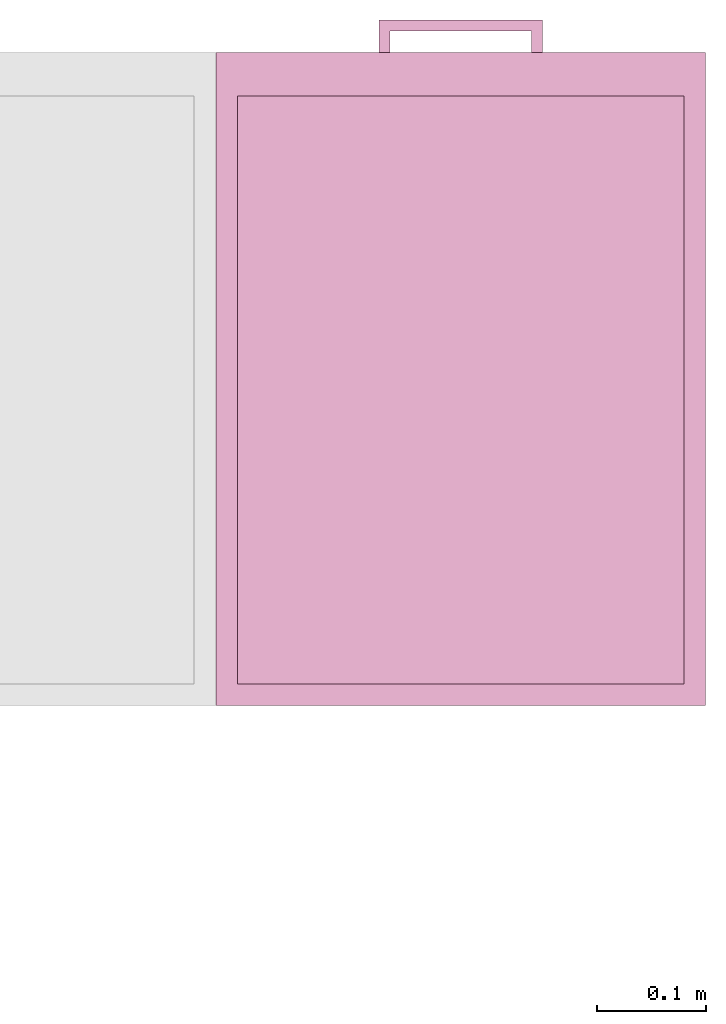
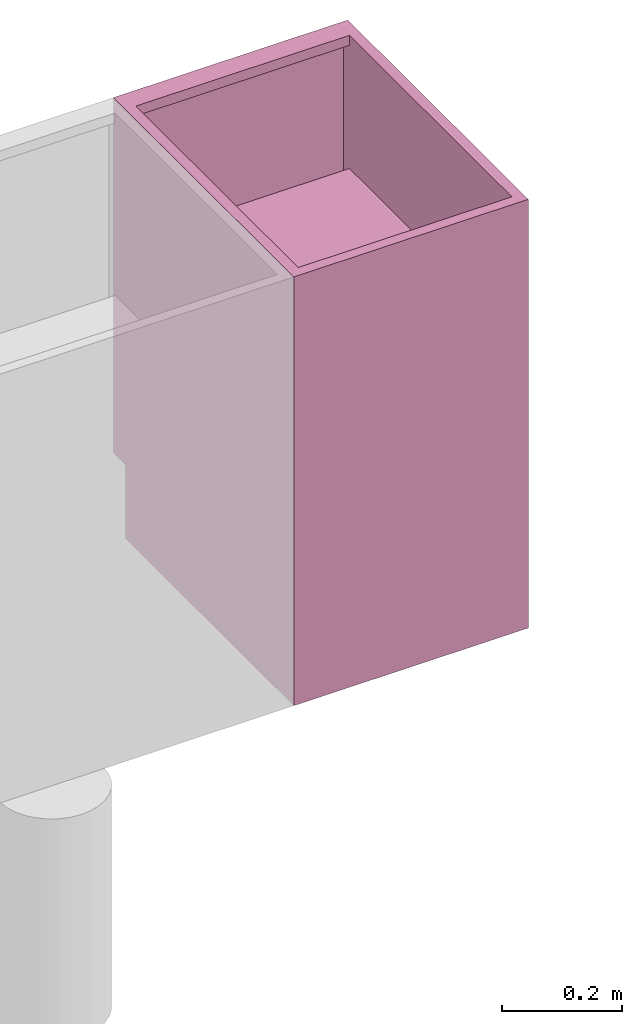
# One storey, part 2 of 3: 1 furnishing.
"""IFC2X3 building model written with IfcOpenShell, lengths in metres."""

from ifc_helpers import new_model, entity, si_unit, converted_unit, derived_unit, direction, frame, origin, place, context, subcontext, project, spatial, faceted_brep, source, transform, mapped, material, type_object, type_shapes, element, save


model = new_model("IFC2X3")

# Units and contexts
model_context = context("Model", 3, precision=1e-05, world=origin(), true_north=direction((6.123031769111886e-17, 1.0)))
body_context = subcontext(model_context, "Body", "Model", "MODEL_VIEW")
ifc_project = project(units=[si_unit("LENGTHUNIT", "METRE"), si_unit("AREAUNIT", "SQUARE_METRE"), si_unit("VOLUMEUNIT", "CUBIC_METRE"), converted_unit("PLANEANGLEUNIT", "DEGREE", entity("IfcRatioMeasure", 0.017453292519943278), si_unit("PLANEANGLEUNIT", "RADIAN"), dimensions=[0, 0, 0, 0, 0, 0, 0]), si_unit("MASSUNIT", "GRAM", prefix="KILO"), derived_unit("MASSDENSITYUNIT", [(si_unit("MASSUNIT", "GRAM", prefix="KILO"), 1), (si_unit("LENGTHUNIT", "METRE"), -3)]), derived_unit("IONCONCENTRATIONUNIT", [(si_unit("MASSUNIT", "GRAM", prefix="KILO"), 1), (si_unit("LENGTHUNIT", "METRE"), -3)]), derived_unit("MOMENTOFINERTIAUNIT", [(si_unit("LENGTHUNIT", "METRE"), 4)]), si_unit("TIMEUNIT", "SECOND"), si_unit("FREQUENCYUNIT", "HERTZ"), si_unit("THERMODYNAMICTEMPERATUREUNIT", "DEGREE_CELSIUS"), derived_unit("THERMALTRANSMITTANCEUNIT", [(si_unit("MASSUNIT", "GRAM", prefix="KILO"), 1), (si_unit("THERMODYNAMICTEMPERATUREUNIT", "KELVIN"), -1), (si_unit("TIMEUNIT", "SECOND"), -3)]), derived_unit("THERMALCONDUCTANCEUNIT", [(si_unit("MASSUNIT", "GRAM", prefix="KILO"), 1), (si_unit("THERMODYNAMICTEMPERATUREUNIT", "KELVIN"), -1), (si_unit("TIMEUNIT", "SECOND"), -3), (si_unit("LENGTHUNIT", "METRE"), 1)]), derived_unit("VOLUMETRICFLOWRATEUNIT", [(si_unit("LENGTHUNIT", "METRE"), 3), (si_unit("TIMEUNIT", "SECOND"), -1)]), derived_unit("MASSFLOWRATEUNIT", [(si_unit("MASSUNIT", "GRAM", prefix="KILO"), 1), (si_unit("TIMEUNIT", "SECOND"), -1)]), derived_unit("ROTATIONALFREQUENCYUNIT", [(si_unit("TIMEUNIT", "SECOND"), -1)]), si_unit("ELECTRICCURRENTUNIT", "AMPERE"), si_unit("ELECTRICVOLTAGEUNIT", "VOLT"), si_unit("POWERUNIT", "WATT"), si_unit("FORCEUNIT", "NEWTON", prefix="KILO"), si_unit("ILLUMINANCEUNIT", "LUX"), si_unit("LUMINOUSFLUXUNIT", "LUMEN"), si_unit("LUMINOUSINTENSITYUNIT", "CANDELA"), derived_unit("USERDEFINED", [(si_unit("MASSUNIT", "GRAM", prefix="KILO"), -1), (si_unit("LENGTHUNIT", "METRE"), -2), (si_unit("TIMEUNIT", "SECOND"), 3), (si_unit("LUMINOUSFLUXUNIT", "LUMEN"), 1)]), derived_unit("USERDEFINED", [(si_unit("MASSUNIT", "GRAM", prefix="KILO"), 1), (si_unit("TIMEUNIT", "SECOND"), -3), (si_unit("LENGTHUNIT", "METRE"), 3), (si_unit("ELECTRICCURRENTUNIT", "AMPERE"), -2)]), derived_unit("SOUNDPOWERUNIT", [(si_unit("MASSUNIT", "GRAM", prefix="KILO"), 1), (si_unit("TIMEUNIT", "SECOND"), -3), (si_unit("LENGTHUNIT", "METRE"), 2)]), derived_unit("SOUNDPRESSUREUNIT", [(si_unit("MASSUNIT", "GRAM", prefix="KILO"), 1), (si_unit("LENGTHUNIT", "METRE"), -1), (si_unit("TIMEUNIT", "SECOND"), -2)]), derived_unit("LINEARVELOCITYUNIT", [(si_unit("LENGTHUNIT", "METRE"), 1), (si_unit("TIMEUNIT", "SECOND"), -1)]), si_unit("PRESSUREUNIT", "PASCAL"), derived_unit("USERDEFINED", [(si_unit("MASSUNIT", "GRAM", prefix="KILO"), 1), (si_unit("LENGTHUNIT", "METRE"), -2), (si_unit("TIMEUNIT", "SECOND"), -2)]), derived_unit("LINEARFORCEUNIT", [(si_unit("MASSUNIT", "GRAM", prefix="KILO"), 1), (si_unit("TIMEUNIT", "SECOND"), -2)]), derived_unit("PLANARFORCEUNIT", [(si_unit("MASSUNIT", "GRAM", prefix="KILO"), 1), (si_unit("LENGTHUNIT", "METRE"), -1), (si_unit("TIMEUNIT", "SECOND"), -2)]), derived_unit("SPECIFICHEATCAPACITYUNIT", [(si_unit("THERMODYNAMICTEMPERATUREUNIT", "KELVIN"), -1), (si_unit("LENGTHUNIT", "METRE"), 2), (si_unit("TIMEUNIT", "SECOND"), -2)]), derived_unit("HEATINGVALUEUNIT", [(si_unit("LENGTHUNIT", "METRE"), 2), (si_unit("TIMEUNIT", "SECOND"), -2)]), derived_unit("VAPORPERMEABILITYUNIT", [(si_unit("LENGTHUNIT", "METRE"), -1), (si_unit("TIMEUNIT", "SECOND"), 1)]), derived_unit("DYNAMICVISCOSITYUNIT", [(si_unit("MASSUNIT", "GRAM", prefix="KILO"), 1), (si_unit("TIMEUNIT", "SECOND"), -1), (si_unit("LENGTHUNIT", "METRE"), -1)]), derived_unit("THERMALEXPANSIONCOEFFICIENTUNIT", [(si_unit("THERMODYNAMICTEMPERATUREUNIT", "KELVIN"), -1)]), derived_unit("MODULUSOFELASTICITYUNIT", [(si_unit("MASSUNIT", "GRAM", prefix="KILO"), 1), (si_unit("LENGTHUNIT", "METRE"), -1), (si_unit("TIMEUNIT", "SECOND"), -2)]), derived_unit("ISOTHERMALMOISTURECAPACITYUNIT", [(si_unit("LENGTHUNIT", "METRE"), 3), (si_unit("MASSUNIT", "GRAM", prefix="KILO"), -1)]), derived_unit("MOISTUREDIFFUSIVITYUNIT", [(si_unit("TIMEUNIT", "SECOND"), -1), (si_unit("LENGTHUNIT", "METRE"), 2)])], contexts=[model_context])

# Site, building, storey, space
site_placement = place(None, frame((1.2553507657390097, -0.6266432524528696, -1.0397761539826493), z_axis=(0.0, 0.0, 1.0), x_axis=(-1.0, 0.0, 0.0)))
site = spatial("IfcSite", under=ifc_project, at=site_placement, Name="Default", CompositionType="ELEMENT")
building_placement = place(site_placement, origin())
building = spatial("IfcBuilding", under=site, at=building_placement, Name="MAISON D'HABITATION", CompositionType="ELEMENT")
storey_placement = place(building_placement, frame((0.0, 0.0, -0.1602238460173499)))
storey = spatial("IfcBuildingStorey", under=building, at=storey_placement, Name="Niveau ...", CompositionType="ELEMENT", Elevation=-0.1602238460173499)
space_placement = place(storey_placement, origin())
space = spatial("IfcSpace", under=storey, at=space_placement, Name="08", CompositionType="ELEMENT", InteriorOrExteriorSpace="INTERNAL")

# Furnishing
ifc_material = material(Name="<Unnamed>")
furniture_type = type_object("IfcFurnitureType", Name="DRAWER UNITS:CUPBOARD DRAWER UNITS 450W", material=ifc_material)
shared_shape = source(origin(), body_context, "Body", "Brep", [
    faceted_brep([(-0.020299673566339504, -0.6000000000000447, 0.2850000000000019), (-0.020299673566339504, -0.6000000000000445, 0.26500000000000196), (-0.030299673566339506, -0.6000000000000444, 0.26500000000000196), (-0.030299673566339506, -0.6000000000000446, 0.2850000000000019), (-0.020299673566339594, -0.6200000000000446, 0.2850000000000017), (-0.020299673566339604, -0.6200000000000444, 0.2650000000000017), (0.10970032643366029, -0.6200000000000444, 0.2650000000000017), (0.10970032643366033, -0.6000000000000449, 0.26500000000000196), (0.11970032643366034, -0.6000000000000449, 0.2650000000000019), (0.11970032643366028, -0.6300000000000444, 0.2650000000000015), (-0.03029967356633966, -0.6300000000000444, 0.26500000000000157), (-0.03029967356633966, -0.6300000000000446, 0.28500000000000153), (0.1197003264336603, -0.6300000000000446, 0.28500000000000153), (0.11970032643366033, -0.6000000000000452, 0.2850000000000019), (0.10970032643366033, -0.6000000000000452, 0.2850000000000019), (0.10970032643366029, -0.6200000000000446, 0.2850000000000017)], [[[0, 1, 2, 3]], [[1, 0, 4, 5]], [[2, 1, 5, 6, 7, 8, 9, 10]], [[3, 2, 10, 11]], [[0, 3, 11, 12, 13, 14, 15, 4]], [[5, 4, 15, 6]], [[11, 10, 9, 12]], [[14, 13, 8, 7]], [[6, 15, 14, 7]], [[12, 9, 8, 13]]]),
    faceted_brep([(-0.02029967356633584, -0.6000000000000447, 0.4600000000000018), (-0.02029967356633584, -0.6000000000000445, 0.4400000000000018), (-0.030299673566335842, -0.6000000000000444, 0.4400000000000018), (-0.030299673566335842, -0.6000000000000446, 0.4600000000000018), (-0.020299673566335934, -0.6200000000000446, 0.4600000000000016), (-0.02029967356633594, -0.6200000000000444, 0.44000000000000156), (0.10970032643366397, -0.6200000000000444, 0.44000000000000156), (0.109700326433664, -0.6000000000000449, 0.4400000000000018), (0.11970032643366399, -0.6000000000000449, 0.44000000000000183), (0.11970032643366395, -0.6300000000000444, 0.44000000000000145), (-0.030299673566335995, -0.6300000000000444, 0.44000000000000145), (-0.030299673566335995, -0.6300000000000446, 0.4600000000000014), (0.11970032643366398, -0.6300000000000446, 0.4600000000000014), (0.11970032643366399, -0.6000000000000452, 0.4600000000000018), (0.109700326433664, -0.6000000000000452, 0.4600000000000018), (0.10970032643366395, -0.6200000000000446, 0.4600000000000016)], [[[0, 1, 2, 3]], [[1, 0, 4, 5]], [[2, 1, 5, 6, 7, 8, 9, 10]], [[3, 2, 10, 11]], [[0, 3, 11, 12, 13, 14, 15, 4]], [[5, 4, 15, 6]], [[11, 10, 9, 12]], [[14, 13, 8, 7]], [[6, 15, 14, 7]], [[12, 9, 8, 13]]]),
    faceted_brep([(-0.020299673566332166, -0.6000000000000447, 0.6350000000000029), (-0.020299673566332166, -0.6000000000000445, 0.6150000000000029), (-0.03029967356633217, -0.6000000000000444, 0.6150000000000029), (-0.03029967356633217, -0.6000000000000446, 0.6350000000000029), (-0.02029967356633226, -0.6200000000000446, 0.6350000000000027), (-0.02029967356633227, -0.6200000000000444, 0.6150000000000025), (0.10970032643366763, -0.6200000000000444, 0.6150000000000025), (0.10970032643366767, -0.6000000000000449, 0.6150000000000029), (0.11970032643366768, -0.6000000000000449, 0.6150000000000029), (0.11970032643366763, -0.6300000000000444, 0.6150000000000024), (-0.030299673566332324, -0.6300000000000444, 0.6150000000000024), (-0.030299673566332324, -0.6300000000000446, 0.6350000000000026), (0.11970032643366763, -0.6300000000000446, 0.6350000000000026), (0.11970032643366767, -0.6000000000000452, 0.6350000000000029), (0.10970032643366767, -0.6000000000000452, 0.6350000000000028), (0.10970032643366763, -0.6200000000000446, 0.6350000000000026)], [[[0, 1, 2, 3]], [[1, 0, 4, 5]], [[2, 1, 5, 6, 7, 8, 9, 10]], [[3, 2, 10, 11]], [[0, 3, 11, 12, 13, 14, 15, 4]], [[5, 4, 15, 6]], [[11, 10, 9, 12]], [[14, 13, 8, 7]], [[6, 15, 14, 7]], [[12, 9, 8, 13]]]),
    faceted_brep([(-0.020299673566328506, -0.6000000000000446, 0.8100000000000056), (-0.020299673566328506, -0.6000000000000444, 0.7900000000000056), (-0.030299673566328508, -0.6000000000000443, 0.7900000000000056), (-0.030299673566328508, -0.6000000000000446, 0.8100000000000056), (-0.020299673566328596, -0.6200000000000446, 0.8100000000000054), (-0.020299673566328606, -0.6200000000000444, 0.7900000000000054), (0.1097003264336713, -0.6200000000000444, 0.7900000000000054), (0.10970032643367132, -0.6000000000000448, 0.7900000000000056), (0.11970032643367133, -0.6000000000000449, 0.7900000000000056), (0.11970032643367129, -0.6300000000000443, 0.7900000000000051), (-0.03029967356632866, -0.6300000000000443, 0.7900000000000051), (-0.03029967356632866, -0.6300000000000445, 0.8100000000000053), (0.1197003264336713, -0.6300000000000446, 0.8100000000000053), (0.11970032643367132, -0.6000000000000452, 0.8100000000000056), (0.10970032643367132, -0.6000000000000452, 0.8100000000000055), (0.1097003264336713, -0.6200000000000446, 0.8100000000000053)], [[[0, 1, 2, 3]], [[1, 0, 4, 5]], [[2, 1, 5, 6, 7, 8, 9, 10]], [[3, 2, 10, 11]], [[0, 3, 11, 12, 13, 14, 15, 4]], [[5, 4, 15, 6]], [[11, 10, 9, 12]], [[14, 13, 8, 7]], [[6, 15, 14, 7]], [[12, 9, 8, 13]]]),
    faceted_brep([(0.26970032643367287, -0.5800000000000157, 0.8700000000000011), (0.26970032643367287, -0.5800000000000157, 0.14999999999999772), (-0.1802996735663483, -0.5800000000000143, 0.14999999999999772), (-0.1802996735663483, -0.5800000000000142, 0.8700000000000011), (0.2697003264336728, -0.6000000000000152, 0.8700000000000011), (-0.18029967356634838, -0.6000000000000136, 0.8700000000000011), (-0.18029967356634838, -0.6000000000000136, 0.14999999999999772), (0.2697003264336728, -0.6000000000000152, 0.14999999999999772)], [[[0, 1, 2, 3]], [[4, 5, 6, 7]], [[5, 4, 0, 3]], [[6, 5, 3, 2]], [[7, 6, 2, 1]], [[4, 7, 1, 0]]]),
    faceted_brep([(-0.18029967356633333, -0.5800000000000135, 0.14999999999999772), (0.26970032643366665, -0.5800000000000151, 0.14999999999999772), (0.26970032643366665, -0.5800000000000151, 0.8699999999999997), (-0.18029967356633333, -0.5800000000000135, 0.8699999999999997), (-0.1602996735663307, -0.5800000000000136, 0.1699999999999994), (-0.1602996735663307, -0.5800000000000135, 0.8499999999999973), (0.24970032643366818, -0.580000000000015, 0.8499999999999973), (0.24970032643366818, -0.580000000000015, 0.1699999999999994), (0.26970032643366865, 0.0, 0.8699999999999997), (-0.18029967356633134, 0.0, 0.8699999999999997), (0.24970032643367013, -0.020000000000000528, 0.8699999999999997), (0.24970032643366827, -0.5600000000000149, 0.8699999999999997), (-0.16029967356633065, -0.5600000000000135, 0.8699999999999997), (-0.1602996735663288, -0.019999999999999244, 0.8699999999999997), (-0.18029967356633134, 0.0, 0.14999999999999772), (0.26970032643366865, 0.0, 0.14999999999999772), (0.24970032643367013, -0.020000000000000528, 0.1699999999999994), (0.24970032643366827, -0.5600000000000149, 0.8499999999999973), (-0.1602996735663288, -0.019999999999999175, 0.1699999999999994), (-0.16029967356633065, -0.5600000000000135, 0.8499999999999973)], [[[0, 1, 2, 3], [4, 5, 6, 7]], [[3, 2, 8, 9], [10, 11, 12, 13]], [[3, 9, 14, 0]], [[1, 0, 14, 15]], [[15, 8, 2, 1]], [[16, 7, 6, 17, 11, 10]], [[4, 7, 16, 18]], [[4, 18, 13, 12, 19, 5]], [[10, 13, 18, 16]], [[8, 15, 14, 9]], [[12, 11, 17, 19]], [[6, 5, 19, 17]]]),
    faceted_brep([(0.2697003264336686, 0.0, 0.14999999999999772), (-0.1802996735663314, 0.0, 0.14999999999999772), (-0.1802996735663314, -0.5600000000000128, 0.14999999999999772), (0.2697003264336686, -0.5600000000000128, 0.14999999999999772), (0.249700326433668, -0.01999999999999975, 0.14999999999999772), (0.249700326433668, -0.5400000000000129, 0.14999999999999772), (-0.1602996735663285, -0.5400000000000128, 0.14999999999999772), (-0.1602996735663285, -0.019999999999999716, 0.14999999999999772), (0.2697003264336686, 0.0, 0.0), (0.2697003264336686, -0.5600000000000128, 0.0), (-0.1802996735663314, -0.5600000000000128, 0.0), (-0.1802996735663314, 0.0, 0.0), (0.249700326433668, -0.01999999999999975, 0.0), (-0.1602996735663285, -0.019999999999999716, 0.0), (-0.1602996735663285, -0.5400000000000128, 0.0), (0.249700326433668, -0.5400000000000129, 0.0)], [[[0, 1, 2, 3], [4, 5, 6, 7]], [[8, 9, 10, 11], [12, 13, 14, 15]], [[1, 0, 8, 11]], [[2, 1, 11, 10]], [[3, 2, 10, 9]], [[0, 3, 9, 8]], [[5, 4, 12, 15]], [[6, 5, 15, 14]], [[7, 6, 14, 13]], [[4, 7, 13, 12]]]),
    faceted_brep([(0.24970032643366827, -0.5600000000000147, 0.6000000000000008), (-0.1602996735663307, -0.5600000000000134, 0.6000000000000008), (-0.1602996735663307, -0.5600000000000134, 0.5800000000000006), (0.24970032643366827, -0.5600000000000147, 0.5800000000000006), (0.24970032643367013, -0.020000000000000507, 0.6000000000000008), (0.24970032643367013, -0.020000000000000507, 0.5800000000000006), (-0.16029967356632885, -0.01999999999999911, 0.5800000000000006), (-0.16029967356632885, -0.01999999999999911, 0.6000000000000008)], [[[0, 1, 2, 3]], [[4, 5, 6, 7]], [[1, 0, 4, 7]], [[2, 1, 7, 6]], [[3, 2, 6, 5]], [[0, 3, 5, 4]]]),
])
type_shapes(furniture_type, [shared_shape])
furnishing_placement = place(space_placement, frame((-4.339567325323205, -0.3738169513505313, 1.1999999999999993)))
element("IfcFurnishingElement", 1, at=furnishing_placement, inside=space, type_object=furniture_type, material=ifc_material, Name="DRAWER UNITS:CUPBOARD DRAWER UNITS 450W", ObjectType="DRAWER UNITS:CUPBOARD DRAWER UNITS 450W", context=body_context, shape_type="MappedRepresentation", body=[
    mapped(shared_shape, transform((0.0, 0.0, 0.0), scale=1.0)),
])

save(model, "model.ifc")
